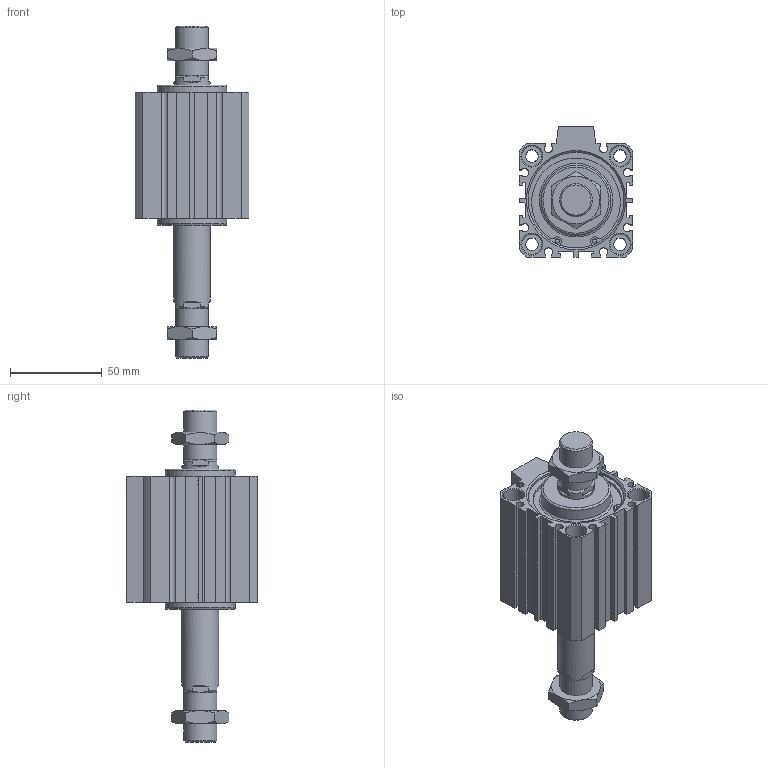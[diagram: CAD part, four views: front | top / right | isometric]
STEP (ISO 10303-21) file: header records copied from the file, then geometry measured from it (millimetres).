
FILE_DESCRIPTION((''),'2;1');
FILE_NAME('I:\3D電子目錄\氣缸\JDD\JDD-B\JDD50-B\JDD50x40-B.stp','2007-02-09T17:08:45',('662F206'),(''),'Autodesk Inventor 10','Autodesk Inventor 10','');
FILE_SCHEMA(('AUTOMOTIVE_DESIGN { 1 0 10303 214 1 1 1 1 }'));
Length unit declared in the file: millimetre
Products named in the file (3): JDD50-B; R 形環 52
Assembly tree (3 placements, depth 2):
  JDD50-B
    JDD50-B
    R 形環 52  x2
Bounding box: 62 x 71 x 180.6 mm (x, y, z)
Volume: 272351.8 mm3; surface area: 57139.4 mm2
Topology: 3 solids, 3 shells, 231 faces, 561 edges, 362 vertices
Faces by surface type: plane 133, cylinder 56, cone 38, bspline 2, torus 2
Full cylindrical faces by diameter (mm): 2.3 x4, 2.7 x2, 6.8 x4, 11 x8, 18 x4, 20 x2, 38 x2, 52 x4, 55 x2
Entity records: 6180 total; most frequent: CARTESIAN_POINT 1222, DIRECTION 1017, ORIENTED_EDGE 942, EDGE_CURVE 471, AXIS2_PLACEMENT_3D 375, VERTEX_POINT 334, EDGE_LOOP 309, VECTOR 267
